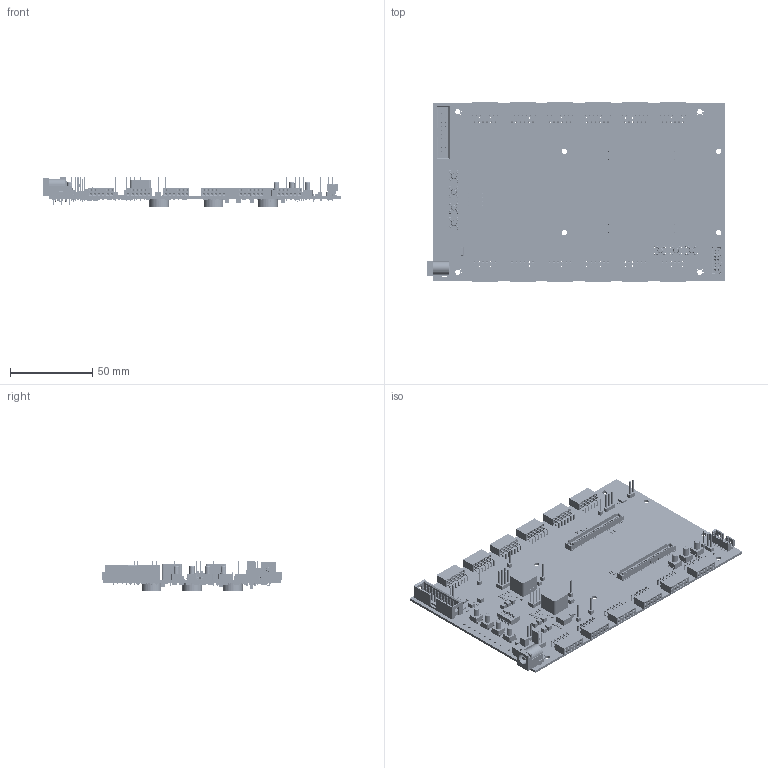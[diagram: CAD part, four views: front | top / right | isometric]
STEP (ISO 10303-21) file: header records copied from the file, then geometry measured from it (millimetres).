
FILE_DESCRIPTION(('Open CASCADE Model'),'2;1');
FILE_NAME('Open CASCADE Shape Model','2014-02-05T16:17:32',('Author'),( 'Open CASCADE'),'Open CASCADE STEP processor 6.2','Open CASCADE 6.2' ,'Unknown');
FILE_SCHEMA(('AUTOMOTIVE_DESIGN { 1 0 10303 214 1 1 1 1 }'));
Length unit declared in the file: millimetre
Products named in the file (347): PCB; Board; R26; 925404096; Extruded; 925403968; Q12; 925403840; Q11; D1; R3; J2; 878321420; Open CASCADE STEP translator 6.2 1.7.1.1; Open CASCADE STEP translator 6.2 1.7.1.2; L3; 984331056; CON2; PJ-002BH; C25; 925403712; 925403584; REG1; 984331184; R18; 984330416; 984330544; JZ; SSW-106-02-X-D-RA; TP2; 984331312; 984331440; BTN1; c-3-1825910-5-c-3d; BTN2; BTN3; C1; 925403456; 925403328; C6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
Assembly tree (870 placements, depth 4):
  PCB
    Board
    R26
      925404096
        Extruded
      925403968
        Extruded
    Q12
      925403840
        Extruded
    Q11
      925403840
        Extruded
    D1
      925403840
        Extruded
    R3
      925404096
        Extruded
      925403968
        Extruded
    J2
      878321420
        Open CASCADE STEP translator 6.2 1.7.1.1
        Open CASCADE STEP translator 6.2 1.7.1.2
    L3
      984331056
        Extruded
    CON2
      PJ-002BH
    C25
      925403712  x2
        Extruded
      925403584
        Extruded
    REG1
      984331184
        Extruded
    R18
      984330416
        Extruded
      984330544
        Extruded
    JZ
      SSW-106-02-X-D-RA
    TP2
      984331312
        Extruded
      984331440
        Extruded
    BTN1
      c-3-1825910-5-c-3d
    BTN2
      c-3-1825910-5-c-3d
    BTN3
      c-3-1825910-5-c-3d
    C1
      925403456  x2
        Extruded
      925403328
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Bounding box: 181.34 x 109.93 x 18.31 mm (x, y, z)
Volume: 50759.1 mm3; surface area: 73791.4 mm2
Topology: 576 solids, 576 shells, 14240 faces, 35991 edges, 22958 vertices
Faces by surface type: plane 13215, cylinder 831, torus 70, sphere 64, cone 56, bspline 4
Full cylindrical faces by diameter (mm): 0.4 x32, 0.8 x2, 1 x36, 1.1 x192, 1.2 x2, 1.9 x3, 3.2 x8, 12 x5
Entity records: 304090 total; most frequent: CARTESIAN_POINT 57552, DIRECTION 45132, LINE 32682, VECTOR 32682, ORIENTED_EDGE 23502, PCURVE 23502, DEFINITIONAL_REPRESENTATION 23502, EDGE_CURVE 11751
